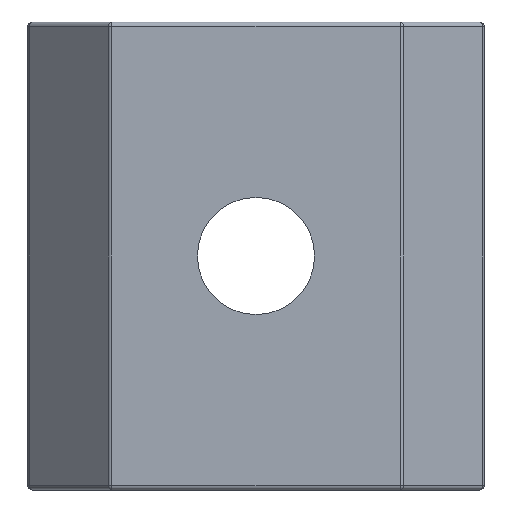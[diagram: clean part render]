
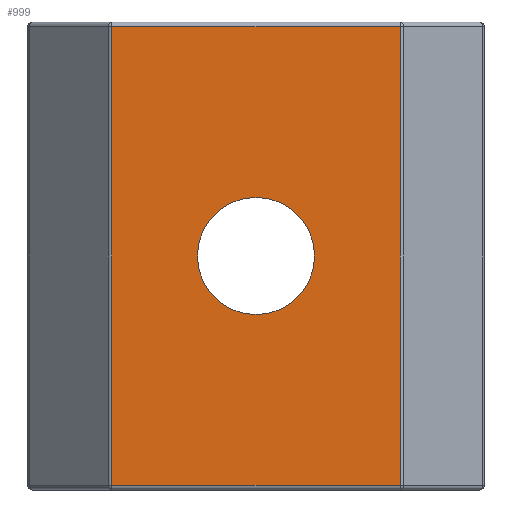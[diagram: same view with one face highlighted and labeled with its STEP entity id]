
A CAD part, front view. The second image highlights one B-rep face of the part: STEP entity #999.
In plain terms, the highlighted planar face has unit normal (0, -1, 0).
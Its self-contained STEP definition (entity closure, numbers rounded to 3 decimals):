
#4 = CARTESIAN_POINT ( 'NONE',  ( 6.164, 0., 9.8 ) ) ;
#10 = EDGE_LOOP ( 'NONE', ( #662, #1496 ) ) ;
#79 = LINE ( 'NONE', #1260, #401 ) ;
#95 = ORIENTED_EDGE ( 'NONE', *, *, #190, .T. ) ;
#113 = EDGE_CURVE ( 'NONE', #659, #1059, #161, .T. ) ;
#161 = CIRCLE ( 'NONE', #886, 2.5 ) ;
#190 = EDGE_CURVE ( 'NONE', #222, #563, #1538, .T. ) ;
#222 = VERTEX_POINT ( 'NONE', #1348 ) ;
#282 = ORIENTED_EDGE ( 'NONE', *, *, #765, .T. ) ;
#290 = FACE_BOUND ( 'NONE', #10, .T. ) ;
#318 = EDGE_CURVE ( 'NONE', #563, #723, #562, .T. ) ;
#349 = EDGE_LOOP ( 'NONE', ( #282, #95, #590, #1324 ) ) ;
#391 = CARTESIAN_POINT ( 'NONE',  ( 0., 0., 2.5 ) ) ;
#401 = VECTOR ( 'NONE', #1166, 1000. ) ;
#431 = CIRCLE ( 'NONE', #1304, 2.5 ) ;
#451 = CARTESIAN_POINT ( 'NONE',  ( 0., 0., -2.5 ) ) ;
#463 = EDGE_CURVE ( 'NONE', #1059, #659, #431, .T. ) ;
#496 = VECTOR ( 'NONE', #1106, 1000. ) ;
#562 = LINE ( 'NONE', #1073, #715 ) ;
#563 = VERTEX_POINT ( 'NONE', #1528 ) ;
#590 = ORIENTED_EDGE ( 'NONE', *, *, #318, .T. ) ;
#602 = DIRECTION ( 'NONE',  ( 0., 0., 1. ) ) ;
#603 = EDGE_CURVE ( 'NONE', #723, #767, #79, .T. ) ;
#612 = DIRECTION ( 'NONE',  ( 0., 1., 0. ) ) ;
#625 = LINE ( 'NONE', #1472, #496 ) ;
#659 = VERTEX_POINT ( 'NONE', #391 ) ;
#662 = ORIENTED_EDGE ( 'NONE', *, *, #113, .T. ) ;
#715 = VECTOR ( 'NONE', #1115, 1000. ) ;
#723 = VERTEX_POINT ( 'NONE', #4 ) ;
#758 = CARTESIAN_POINT ( 'NONE',  ( -6.25, 0., 10. ) ) ;
#765 = EDGE_CURVE ( 'NONE', #767, #222, #625, .T. ) ;
#767 = VERTEX_POINT ( 'NONE', #1198 ) ;
#801 = PLANE ( 'NONE',  #1521 ) ;
#886 = AXIS2_PLACEMENT_3D ( 'NONE', #1285, #1264, #1238 ) ;
#939 = DIRECTION ( 'NONE',  ( 0., 0., 1. ) ) ;
#946 = DIRECTION ( 'NONE',  ( 0., 1., 0. ) ) ;
#948 = CARTESIAN_POINT ( 'NONE',  ( 0., 0., 0. ) ) ;
#999 = ADVANCED_FACE ( 'NONE', ( #1255, #290 ), #801, .F. ) ;
#1023 = VECTOR ( 'NONE', #1400, 1000. ) ;
#1059 = VERTEX_POINT ( 'NONE', #451 ) ;
#1073 = CARTESIAN_POINT ( 'NONE',  ( 6.164, 0., 10. ) ) ;
#1106 = DIRECTION ( 'NONE',  ( 0., 0., -1. ) ) ;
#1115 = DIRECTION ( 'NONE',  ( 0., 0., 1. ) ) ;
#1166 = DIRECTION ( 'NONE',  ( -1., 0., 0. ) ) ;
#1198 = CARTESIAN_POINT ( 'NONE',  ( -6.164, 0., 9.8 ) ) ;
#1238 = DIRECTION ( 'NONE',  ( 0., 0., 1. ) ) ;
#1255 = FACE_OUTER_BOUND ( 'NONE', #349, .T. ) ;
#1260 = CARTESIAN_POINT ( 'NONE',  ( -6.25, 0., 9.8 ) ) ;
#1264 = DIRECTION ( 'NONE',  ( 0., 1., 0. ) ) ;
#1285 = CARTESIAN_POINT ( 'NONE',  ( 0., 0., 0. ) ) ;
#1304 = AXIS2_PLACEMENT_3D ( 'NONE', #948, #946, #939 ) ;
#1324 = ORIENTED_EDGE ( 'NONE', *, *, #603, .T. ) ;
#1348 = CARTESIAN_POINT ( 'NONE',  ( -6.164, 0., -9.8 ) ) ;
#1400 = DIRECTION ( 'NONE',  ( 1., 0., 0. ) ) ;
#1405 = CARTESIAN_POINT ( 'NONE',  ( 6.25, 0., -9.8 ) ) ;
#1472 = CARTESIAN_POINT ( 'NONE',  ( -6.164, 0., 10. ) ) ;
#1496 = ORIENTED_EDGE ( 'NONE', *, *, #463, .T. ) ;
#1521 = AXIS2_PLACEMENT_3D ( 'NONE', #758, #612, #602 ) ;
#1528 = CARTESIAN_POINT ( 'NONE',  ( 6.164, 0., -9.8 ) ) ;
#1538 = LINE ( 'NONE', #1405, #1023 ) ;
